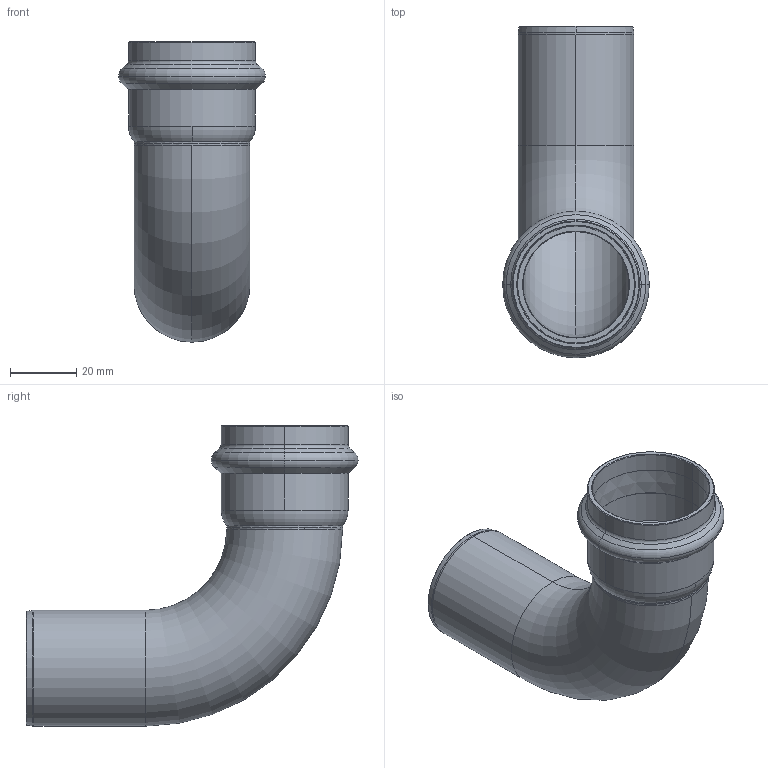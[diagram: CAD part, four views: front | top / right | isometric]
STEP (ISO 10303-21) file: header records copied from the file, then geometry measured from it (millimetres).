
FILE_DESCRIPTION(('CoCreate Modeling STEP Export'),'2;1');
FILE_NAME('8001VW35.stp','2013-01-29T13:59:06',(''),(''),'CoCreate Modeling STEP processor for AP214 (Solid Model)','CoCreate Modeling 17.00A 17-Jun-2010 (C) Parametric Technology GmbH','');
FILE_SCHEMA(('AUTOMOTIVE_DESIGN { 1 0 10303 214 1 1 1 1 }'));
Length unit declared in the file: millimetre
Products named in the file (2): 8001VW35
Assembly tree (1 placements, depth 2):
  8001VW35
    8001VW35
Bounding box: 44.3 x 100.25 x 90.69 mm (x, y, z)
Volume: 23703.9 mm3; surface area: 29727.7 mm2
Topology: 1 solids, 1 shells, 60 faces, 145 edges, 89 vertices
Faces by surface type: torus 20, cylinder 18, cone 16, plane 4, extrusion 2
Entity records: 1979 total; most frequent: CARTESIAN_POINT 766, ORIENTED_EDGE 290, DIRECTION 208, EDGE_CURVE 145, VERTEX_POINT 89, AXIS2_PLACEMENT_3D 85, EDGE_LOOP 64, FACE_OUTER_BOUND 60
